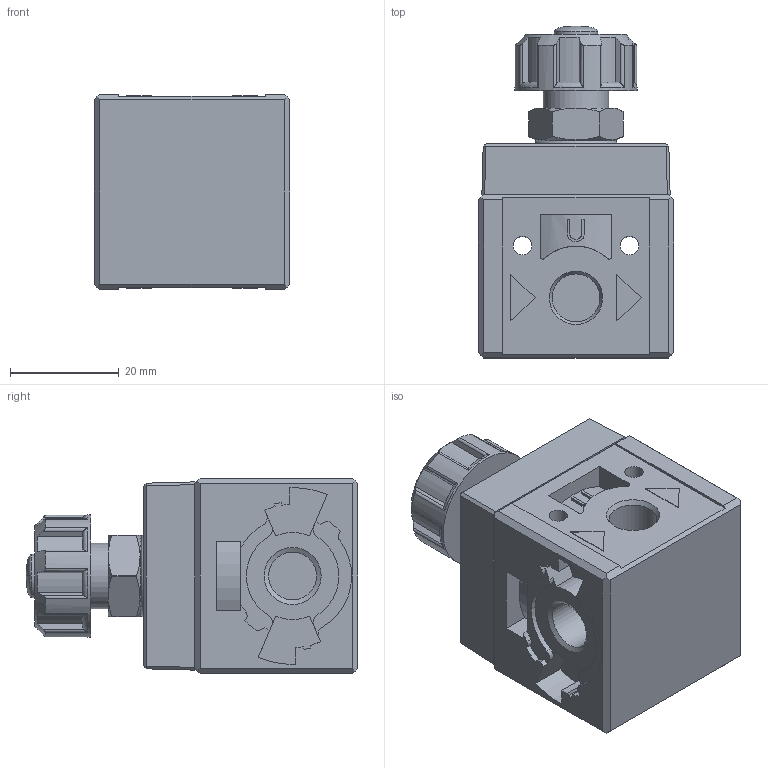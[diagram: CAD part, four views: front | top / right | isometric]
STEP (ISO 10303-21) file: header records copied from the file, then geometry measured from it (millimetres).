
FILE_DESCRIPTION((''),'2;1');
FILE_NAME('F:\AirCom-Produktdokumentation\Druckregler\R035\CAD\CAD AirCom\3D\B-R035-01B.stp','2010-04-19T16:21:07',('Frank Schroers'),(''),'Autodesk Inventor 2008','Autodesk Inventor 2008','');
FILE_SCHEMA(('AUTOMOTIVE_DESIGN { 1 0 10303 214 1 1 1 1 }'));
Length unit declared in the file: millimetre
Products named in the file (1): 0350100006
Bounding box: 36 x 61 x 36 mm (x, y, z)
Volume: 47724.1 mm3; surface area: 13599.1 mm2
Topology: 1 solids, 1 shells, 419 faces, 1148 edges, 760 vertices
Faces by surface type: plane 241, cylinder 112, cone 32, bspline 24, torus 10
Full cylindrical faces by diameter (mm): 1.4 x1, 3.4 x2, 6.6 x4, 7.4 x4, 8 x1, 8.8 x4, 12 x1, 22.5 x1
Entity records: 15661 total; most frequent: CARTESIAN_POINT 4868, ORIENTED_EDGE 2240, DIRECTION 1988, EDGE_CURVE 1120, VERTEX_POINT 758, AXIS2_PLACEMENT_3D 679, VECTOR 630, LINE 630
